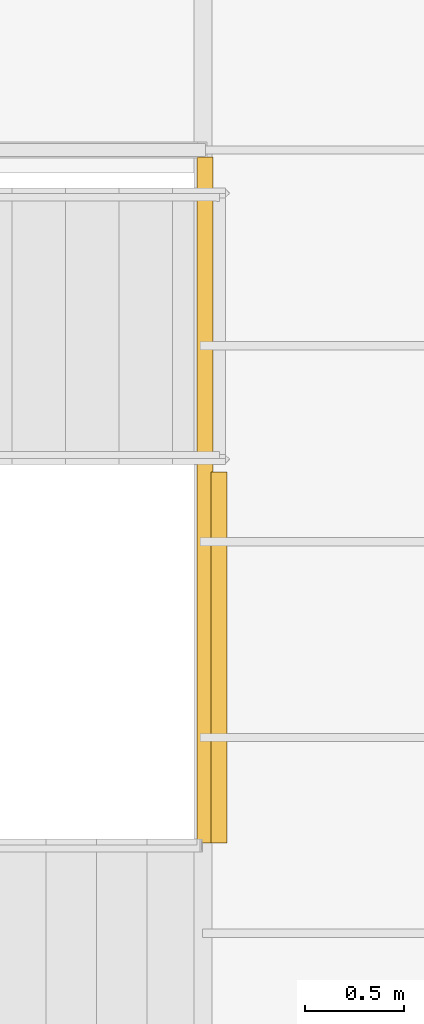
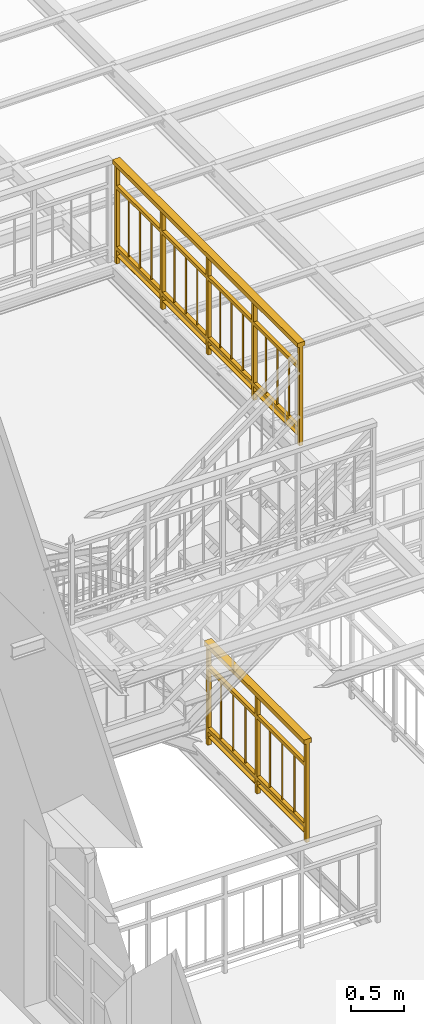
# One storey, part 29 of 33: 2 railings.
"""IFC2X3 building model written with IfcOpenShell, lengths in metres."""

from ifc_helpers import new_model, entity, si_unit, converted_unit, derived_unit, direction, frame, origin, place, context, subcontext, project, spatial, faceted_brep, element, save


model = new_model("IFC2X3")

# Units and contexts
model_context = context("Model", 3, precision=1e-05, world=origin(), true_north=direction((6.12303176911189e-17, 1.0)))
body_context = subcontext(model_context, "Body", "Model", "MODEL_VIEW")
ifc_project = project(units=[si_unit("LENGTHUNIT", "METRE"), si_unit("AREAUNIT", "SQUARE_METRE"), si_unit("VOLUMEUNIT", "CUBIC_METRE"), converted_unit("PLANEANGLEUNIT", "DEGREE", entity("IfcRatioMeasure", 0.0174532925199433), si_unit("PLANEANGLEUNIT", "RADIAN"), dimensions=[0, 0, 0, 0, 0, 0, 0]), si_unit("MASSUNIT", "GRAM", prefix="KILO"), derived_unit("MASSDENSITYUNIT", [(si_unit("MASSUNIT", "GRAM", prefix="KILO"), 1), (si_unit("LENGTHUNIT", "METRE"), -3)]), derived_unit("MOMENTOFINERTIAUNIT", [(si_unit("LENGTHUNIT", "METRE"), 4)]), si_unit("TIMEUNIT", "SECOND"), si_unit("FREQUENCYUNIT", "HERTZ"), si_unit("THERMODYNAMICTEMPERATUREUNIT", "DEGREE_CELSIUS"), derived_unit("THERMALTRANSMITTANCEUNIT", [(si_unit("MASSUNIT", "GRAM", prefix="KILO"), 1), (si_unit("THERMODYNAMICTEMPERATUREUNIT", "KELVIN"), -1), (si_unit("TIMEUNIT", "SECOND"), -3)]), derived_unit("VOLUMETRICFLOWRATEUNIT", [(si_unit("LENGTHUNIT", "METRE"), 3), (si_unit("TIMEUNIT", "SECOND"), -1)]), si_unit("ELECTRICCURRENTUNIT", "AMPERE"), si_unit("ELECTRICVOLTAGEUNIT", "VOLT"), si_unit("POWERUNIT", "WATT"), si_unit("FORCEUNIT", "NEWTON", prefix="KILO"), si_unit("ILLUMINANCEUNIT", "LUX"), si_unit("LUMINOUSFLUXUNIT", "LUMEN"), si_unit("LUMINOUSINTENSITYUNIT", "CANDELA"), derived_unit("USERDEFINED", [(si_unit("MASSUNIT", "GRAM", prefix="KILO"), -1), (si_unit("LENGTHUNIT", "METRE"), -2), (si_unit("TIMEUNIT", "SECOND"), 3), (si_unit("LUMINOUSFLUXUNIT", "LUMEN"), 1)]), derived_unit("LINEARVELOCITYUNIT", [(si_unit("LENGTHUNIT", "METRE"), 1), (si_unit("TIMEUNIT", "SECOND"), -1)]), si_unit("PRESSUREUNIT", "PASCAL"), derived_unit("USERDEFINED", [(si_unit("LENGTHUNIT", "METRE"), -2), (si_unit("MASSUNIT", "GRAM", prefix="KILO"), 1), (si_unit("TIMEUNIT", "SECOND"), -2)]), derived_unit("LINEARFORCEUNIT", [(si_unit("MASSUNIT", "GRAM", prefix="KILO"), 1), (si_unit("LENGTHUNIT", "METRE"), 1), (si_unit("TIMEUNIT", "SECOND"), -2), (si_unit("LENGTHUNIT", "METRE"), -1)]), derived_unit("PLANARFORCEUNIT", [(si_unit("MASSUNIT", "GRAM", prefix="KILO"), 1), (si_unit("LENGTHUNIT", "METRE"), 1), (si_unit("TIMEUNIT", "SECOND"), -2), (si_unit("LENGTHUNIT", "METRE"), -2)])], contexts=[model_context])

# Site, building, storey
site_placement = place(None, origin())
site = spatial("IfcSite", under=ifc_project, at=site_placement, Name="Superficie", CompositionType="ELEMENT")
building_placement = place(site_placement, origin())
building = spatial("IfcBuilding", under=site, at=building_placement, Name="Telegestiones", CompositionType="ELEMENT")
storey_placement = place(building_placement, frame((0.0, 0.0, 4.94)))
storey = spatial("IfcBuildingStorey", under=building, at=storey_placement, Name="Nivel 1_NPT", CompositionType="ELEMENT", Elevation=4.94)

# Railings
railing_1_placement = place(storey_placement, frame((9.68481262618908, 2.93175008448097, 0.0)))
element("IfcRailing", 1, at=railing_1_placement, inside=storey, Name="Barandilla:ARQ-BA-IN-118-Hi-Ba2", ObjectType="Barandilla:ARQ-BA-IN-118-Hi-Ba2", PredefinedType="NOTDEFINED", context=body_context, shape_type="Brep", body=[
    faceted_brep([(0.0300000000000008, 0.249496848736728, 0.2), (0.0400000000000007, 0.239496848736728, 0.2), (0.0400000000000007, 0.239496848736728, 0.859999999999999), (0.0300000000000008, 0.249496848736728, 0.859999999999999), (0.0500000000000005, 0.249496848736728, 0.2), (0.0500000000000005, 0.249496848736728, 0.859999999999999), (0.0400000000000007, 0.259496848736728, 0.2), (0.0400000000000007, 0.259496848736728, 0.859999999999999)], [[[0, 1, 2, 3]], [[2, 1, 4, 5]], [[5, 4, 6, 7]], [[7, 6, 0, 3]], [[3, 2, 5, 7]], [[0, 6, 4, 1]]]),
    faceted_brep([(0.0300000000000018, 0.478993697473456, 0.2), (0.0400000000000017, 0.468993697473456, 0.2), (0.0400000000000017, 0.468993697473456, 0.859999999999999), (0.0300000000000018, 0.478993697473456, 0.859999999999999), (0.0500000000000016, 0.478993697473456, 0.2), (0.0500000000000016, 0.478993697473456, 0.859999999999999), (0.0400000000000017, 0.488993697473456, 0.2), (0.0400000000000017, 0.488993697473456, 0.859999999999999)], [[[0, 1, 2, 3]], [[2, 1, 4, 5]], [[5, 4, 6, 7]], [[7, 6, 0, 3]], [[3, 2, 5, 7]], [[0, 6, 4, 1]]]),
    faceted_brep([(0.0300000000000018, 0.708490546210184, 0.2), (0.0400000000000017, 0.698490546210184, 0.2), (0.0400000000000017, 0.698490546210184, 0.859999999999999), (0.0300000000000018, 0.708490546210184, 0.859999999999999), (0.0500000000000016, 0.708490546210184, 0.2), (0.0500000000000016, 0.708490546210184, 0.859999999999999), (0.0400000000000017, 0.718490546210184, 0.2), (0.0400000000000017, 0.718490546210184, 0.859999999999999)], [[[0, 1, 2, 3]], [[2, 1, 4, 5]], [[5, 4, 6, 7]], [[7, 6, 0, 3]], [[3, 2, 5, 7]], [[0, 6, 4, 1]]]),
    faceted_brep([(0.0600000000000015, 0.957987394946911, 1.13), (0.0600000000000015, 0.957987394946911, 0.0), (0.020000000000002, 0.957987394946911, 0.0), (0.020000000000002, 0.957987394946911, 1.13), (0.020000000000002, 0.917987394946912, 0.0), (0.020000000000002, 0.917987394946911, 1.13), (0.0600000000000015, 0.917987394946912, 0.0), (0.0600000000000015, 0.917987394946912, 1.13)], [[[0, 1, 2, 3]], [[3, 2, 4, 5]], [[5, 4, 6, 7]], [[1, 0, 7, 6]], [[0, 3, 5, 7]], [[2, 1, 6, 4]]]),
    faceted_brep([(0.0300000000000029, 1.16748424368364, 0.2), (0.0400000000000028, 1.15748424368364, 0.2), (0.0400000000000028, 1.15748424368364, 0.859999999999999), (0.0300000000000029, 1.16748424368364, 0.859999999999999), (0.0500000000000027, 1.16748424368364, 0.2), (0.0500000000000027, 1.16748424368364, 0.859999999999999), (0.0400000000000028, 1.17748424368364, 0.2), (0.0400000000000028, 1.17748424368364, 0.859999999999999)], [[[0, 1, 2, 3]], [[2, 1, 4, 5]], [[5, 4, 6, 7]], [[7, 6, 0, 3]], [[3, 2, 5, 7]], [[0, 6, 4, 1]]]),
    faceted_brep([(0.0300000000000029, 1.39698109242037, 0.2), (0.0400000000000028, 1.38698109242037, 0.2), (0.0400000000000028, 1.38698109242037, 0.859999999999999), (0.0300000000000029, 1.39698109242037, 0.859999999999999), (0.0500000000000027, 1.39698109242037, 0.2), (0.0500000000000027, 1.39698109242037, 0.859999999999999), (0.0400000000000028, 1.40698109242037, 0.2), (0.0400000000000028, 1.40698109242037, 0.859999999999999)], [[[0, 1, 2, 3]], [[2, 1, 4, 5]], [[5, 4, 6, 7]], [[7, 6, 0, 3]], [[3, 2, 5, 7]], [[0, 6, 4, 1]]]),
    faceted_brep([(0.0300000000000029, 1.62647794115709, 0.2), (0.0400000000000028, 1.6164779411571, 0.2), (0.0400000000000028, 1.6164779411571, 0.859999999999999), (0.0300000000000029, 1.62647794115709, 0.859999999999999), (0.0500000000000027, 1.62647794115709, 0.2), (0.0500000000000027, 1.62647794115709, 0.859999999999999), (0.0400000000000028, 1.63647794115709, 0.2), (0.0400000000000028, 1.63647794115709, 0.859999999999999)], [[[0, 1, 2, 3]], [[2, 1, 4, 5]], [[5, 4, 6, 7]], [[7, 6, 0, 3]], [[3, 2, 5, 7]], [[0, 6, 4, 1]]]),
    faceted_brep([(0.0600000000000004, 0.0400000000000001, 1.13), (0.0600000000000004, 0.0400000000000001, 0.0), (0.0200000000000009, 0.0400000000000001, 0.0), (0.0200000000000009, 0.0400000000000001, 1.13), (0.0200000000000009, 0.0, 0.0), (0.0200000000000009, 0.0, 1.13), (0.0600000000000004, 0.0, 0.0), (0.0600000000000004, 0.0, 1.13)], [[[0, 1, 2, 3]], [[3, 2, 4, 5]], [[5, 4, 6, 7]], [[1, 0, 7, 6]], [[0, 3, 5, 7]], [[2, 1, 6, 4]]]),
    faceted_brep([(0.0600000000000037, 1.87597478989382, 1.13), (0.0600000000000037, 1.87597478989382, 0.0), (0.0200000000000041, 1.87597478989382, 0.0), (0.0200000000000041, 1.87597478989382, 1.13), (0.0200000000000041, 1.83597478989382, 0.0), (0.0200000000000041, 1.83597478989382, 1.13), (0.0600000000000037, 1.83597478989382, 0.0), (0.0600000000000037, 1.83597478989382, 1.13)], [[[0, 1, 2, 3]], [[3, 2, 4, 5]], [[5, 4, 6, 7]], [[1, 0, 7, 6]], [[0, 3, 5, 7]], [[2, 1, 6, 4]]]),
    faceted_brep([(0.0200000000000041, 1.85597478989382, 0.9), (0.0600000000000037, 1.85597478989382, 0.9), (0.0600000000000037, 1.85597478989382, 0.860000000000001), (0.0200000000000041, 1.85597478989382, 0.860000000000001), (0.0200000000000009, 0.0200000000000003, 0.9), (0.0200000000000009, 0.0200000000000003, 0.860000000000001), (0.0600000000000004, 0.0200000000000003, 0.860000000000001), (0.0600000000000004, 0.0200000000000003, 0.9)], [[[0, 1, 2, 3]], [[4, 5, 6, 7]], [[1, 0, 4, 7]], [[2, 1, 7, 6]], [[3, 2, 6, 5]], [[0, 3, 5, 4]]]),
    faceted_brep([(0.0200000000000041, 1.85597478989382, 0.2), (0.0600000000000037, 1.85597478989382, 0.2), (0.0600000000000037, 1.85597478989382, 0.16), (0.0200000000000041, 1.85597478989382, 0.16), (0.0200000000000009, 0.0200000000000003, 0.2), (0.0200000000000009, 0.0200000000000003, 0.16), (0.0600000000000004, 0.0200000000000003, 0.16), (0.0600000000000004, 0.0200000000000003, 0.2)], [[[0, 1, 2, 3]], [[4, 5, 6, 7]], [[1, 0, 4, 7]], [[2, 1, 7, 6]], [[3, 2, 6, 5]], [[0, 3, 5, 4]]]),
    faceted_brep([(0.0200000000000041, 1.85597478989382, 0.1), (0.0600000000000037, 1.85597478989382, 0.1), (0.0600000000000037, 1.85597478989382, 0.0940000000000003), (0.0200000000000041, 1.85597478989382, 0.0940000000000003), (0.0200000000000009, 0.0200000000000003, 0.1), (0.0200000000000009, 0.0200000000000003, 0.0940000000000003), (0.0600000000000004, 0.0200000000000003, 0.0940000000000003), (0.0600000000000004, 0.0200000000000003, 0.1)], [[[0, 1, 2, 3]], [[4, 5, 6, 7]], [[2, 1, 7, 6]], [[1, 0, 4, 7]], [[3, 2, 6, 5]], [[0, 3, 5, 4]]]),
    faceted_brep([(0.0800000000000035, 1.85597478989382, 1.13), (0.0800000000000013, 1.85597478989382, 1.18), (0.0799999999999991, 0.0200000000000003, 1.18), (0.0799999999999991, 0.0200000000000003, 1.13), (0.0, 1.85597478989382, 1.13), (0.0, 0.0200000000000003, 1.13), (0.0, 1.85597478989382, 1.18), (0.0, 0.0200000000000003, 1.18), (0.0800000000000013, 0.0, 1.18), (0.0, 0.0, 1.18), (0.0, 0.0, 1.13), (0.0799999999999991, 0.0, 1.13), (0.0800000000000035, 1.87597478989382, 1.18), (0.0800000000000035, 1.87597478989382, 1.13), (0.0, 1.87597478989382, 1.13), (0.0, 1.87597478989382, 1.18)], [[[0, 1, 2, 3]], [[4, 0, 3, 5]], [[6, 4, 5, 7]], [[1, 6, 7, 2]], [[8, 9, 10, 11]], [[3, 2, 8, 11]], [[5, 3, 11, 10]], [[7, 5, 10, 9]], [[2, 7, 9, 8]], [[12, 13, 14, 15]], [[13, 12, 1, 0]], [[14, 13, 0, 4]], [[15, 14, 4, 6]], [[12, 15, 6, 1]]]),
])
railing_2_placement = place(storey_placement, frame((9.61481262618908, 2.93175008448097, 4.56)))
element("IfcRailing", 2, at=railing_2_placement, inside=storey, Name="Barandilla:ARQ-BA-IN-118-Hi-Ba2", ObjectType="Barandilla:ARQ-BA-IN-118-Hi-Ba2", PredefinedType="NOTDEFINED", context=body_context, shape_type="Brep", body=[
    faceted_brep([(0.0300000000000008, 0.23424107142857, 0.2), (0.0400000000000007, 0.22424107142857, 0.2), (0.0400000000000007, 0.22424107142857, 0.859999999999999), (0.0300000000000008, 0.23424107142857, 0.859999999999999), (0.0500000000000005, 0.23424107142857, 0.2), (0.0500000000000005, 0.23424107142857, 0.859999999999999), (0.0400000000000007, 0.24424107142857, 0.2), (0.0400000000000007, 0.24424107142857, 0.859999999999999)], [[[0, 1, 2, 3]], [[2, 1, 4, 5]], [[5, 4, 6, 7]], [[7, 6, 0, 3]], [[3, 2, 5, 7]], [[0, 6, 4, 1]]]),
    faceted_brep([(0.0300000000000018, 0.448482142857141, 0.2), (0.0400000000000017, 0.438482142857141, 0.2), (0.0400000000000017, 0.438482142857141, 0.859999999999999), (0.0300000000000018, 0.448482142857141, 0.859999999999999), (0.0500000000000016, 0.448482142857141, 0.2), (0.0500000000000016, 0.448482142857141, 0.859999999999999), (0.0400000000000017, 0.45848214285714, 0.2), (0.0400000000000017, 0.45848214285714, 0.859999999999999)], [[[0, 1, 2, 3]], [[2, 1, 4, 5]], [[5, 4, 6, 7]], [[7, 6, 0, 3]], [[3, 2, 5, 7]], [[0, 6, 4, 1]]]),
    faceted_brep([(0.0300000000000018, 0.66272321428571, 0.2), (0.0400000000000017, 0.65272321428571, 0.2), (0.0400000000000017, 0.65272321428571, 0.859999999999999), (0.0300000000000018, 0.66272321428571, 0.859999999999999), (0.0500000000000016, 0.66272321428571, 0.2), (0.0500000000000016, 0.66272321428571, 0.859999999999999), (0.0400000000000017, 0.67272321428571, 0.2), (0.0400000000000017, 0.67272321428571, 0.859999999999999)], [[[0, 1, 2, 3]], [[2, 1, 4, 5]], [[5, 4, 6, 7]], [[7, 6, 0, 3]], [[3, 2, 5, 7]], [[0, 6, 4, 1]]]),
    faceted_brep([(0.0600000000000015, 0.89696428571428, 1.13), (0.0600000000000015, 0.89696428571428, 0.0), (0.020000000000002, 0.89696428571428, 0.0), (0.020000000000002, 0.89696428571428, 1.13), (0.020000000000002, 0.85696428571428, 0.0), (0.020000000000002, 0.85696428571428, 1.13), (0.0600000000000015, 0.85696428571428, 0.0), (0.0600000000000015, 0.85696428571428, 1.13)], [[[0, 1, 2, 3]], [[3, 2, 4, 5]], [[5, 4, 6, 7]], [[1, 0, 7, 6]], [[0, 3, 5, 7]], [[2, 1, 6, 4]]]),
    faceted_brep([(0.0300000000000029, 1.09120535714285, 0.2), (0.0400000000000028, 1.08120535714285, 0.2), (0.0400000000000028, 1.08120535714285, 0.859999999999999), (0.0300000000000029, 1.09120535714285, 0.859999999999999), (0.0500000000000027, 1.09120535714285, 0.2), (0.0500000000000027, 1.09120535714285, 0.859999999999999), (0.0400000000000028, 1.10120535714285, 0.2), (0.0400000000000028, 1.10120535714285, 0.859999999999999)], [[[0, 1, 2, 3]], [[2, 1, 4, 5]], [[5, 4, 6, 7]], [[7, 6, 0, 3]], [[3, 2, 5, 7]], [[0, 6, 4, 1]]]),
    faceted_brep([(0.0300000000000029, 1.30544642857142, 0.2), (0.0400000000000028, 1.29544642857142, 0.2), (0.0400000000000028, 1.29544642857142, 0.859999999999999), (0.0300000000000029, 1.30544642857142, 0.859999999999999), (0.0500000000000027, 1.30544642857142, 0.2), (0.0500000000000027, 1.30544642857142, 0.859999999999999), (0.0400000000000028, 1.31544642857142, 0.2), (0.0400000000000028, 1.31544642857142, 0.859999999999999)], [[[0, 1, 2, 3]], [[2, 1, 4, 5]], [[5, 4, 6, 7]], [[7, 6, 0, 3]], [[3, 2, 5, 7]], [[0, 6, 4, 1]]]),
    faceted_brep([(0.0300000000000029, 1.51968749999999, 0.2), (0.0400000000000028, 1.50968749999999, 0.2), (0.0400000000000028, 1.50968749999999, 0.859999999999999), (0.0300000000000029, 1.51968749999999, 0.859999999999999), (0.0500000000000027, 1.51968749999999, 0.2), (0.0500000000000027, 1.51968749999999, 0.859999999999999), (0.0400000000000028, 1.52968749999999, 0.2), (0.0400000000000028, 1.52968749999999, 0.859999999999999)], [[[0, 1, 2, 3]], [[2, 1, 4, 5]], [[5, 4, 6, 7]], [[7, 6, 0, 3]], [[3, 2, 5, 7]], [[0, 6, 4, 1]]]),
    faceted_brep([(0.0600000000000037, 1.75392857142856, 1.13), (0.0600000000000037, 1.75392857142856, 0.0), (0.0200000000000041, 1.75392857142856, 0.0), (0.0200000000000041, 1.75392857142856, 1.13), (0.0200000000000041, 1.71392857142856, 0.0), (0.0200000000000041, 1.71392857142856, 1.13), (0.0600000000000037, 1.71392857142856, 0.0), (0.0600000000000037, 1.71392857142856, 1.13)], [[[0, 1, 2, 3]], [[3, 2, 4, 5]], [[5, 4, 6, 7]], [[1, 0, 7, 6]], [[0, 3, 5, 7]], [[2, 1, 6, 4]]]),
    faceted_brep([(0.030000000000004, 1.94816964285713, 0.2), (0.0400000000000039, 1.93816964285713, 0.2), (0.0400000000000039, 1.93816964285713, 0.859999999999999), (0.030000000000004, 1.94816964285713, 0.859999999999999), (0.0500000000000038, 1.94816964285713, 0.2), (0.0500000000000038, 1.94816964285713, 0.859999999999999), (0.0400000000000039, 1.95816964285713, 0.2), (0.0400000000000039, 1.95816964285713, 0.859999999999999)], [[[0, 1, 2, 3]], [[2, 1, 4, 5]], [[5, 4, 6, 7]], [[7, 6, 0, 3]], [[3, 2, 5, 7]], [[0, 6, 4, 1]]]),
    faceted_brep([(0.030000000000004, 2.1624107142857, 0.2), (0.0400000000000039, 2.1524107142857, 0.2), (0.0400000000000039, 2.1524107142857, 0.859999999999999), (0.030000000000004, 2.1624107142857, 0.859999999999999), (0.0500000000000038, 2.1624107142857, 0.2), (0.0500000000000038, 2.1624107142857, 0.859999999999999), (0.0400000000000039, 2.1724107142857, 0.2), (0.0400000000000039, 2.1724107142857, 0.859999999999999)], [[[0, 1, 2, 3]], [[2, 1, 4, 5]], [[5, 4, 6, 7]], [[7, 6, 0, 3]], [[3, 2, 5, 7]], [[0, 6, 4, 1]]]),
    faceted_brep([(0.0300000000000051, 2.37665178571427, 0.2), (0.040000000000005, 2.36665178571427, 0.2), (0.040000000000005, 2.36665178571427, 0.859999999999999), (0.0300000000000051, 2.37665178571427, 0.859999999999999), (0.0500000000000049, 2.37665178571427, 0.2), (0.0500000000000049, 2.37665178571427, 0.859999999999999), (0.040000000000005, 2.38665178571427, 0.2), (0.040000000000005, 2.38665178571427, 0.859999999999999)], [[[0, 1, 2, 3]], [[2, 1, 4, 5]], [[5, 4, 6, 7]], [[7, 6, 0, 3]], [[3, 2, 5, 7]], [[0, 6, 4, 1]]]),
    faceted_brep([(0.0600000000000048, 2.61089285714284, 1.13), (0.0600000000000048, 2.61089285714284, 0.0), (0.0200000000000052, 2.61089285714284, 0.0), (0.0200000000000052, 2.61089285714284, 1.13), (0.0200000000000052, 2.57089285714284, 0.0), (0.0200000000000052, 2.57089285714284, 1.13), (0.0600000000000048, 2.57089285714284, 0.0), (0.0600000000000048, 2.57089285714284, 1.13)], [[[0, 1, 2, 3]], [[3, 2, 4, 5]], [[5, 4, 6, 7]], [[1, 0, 7, 6]], [[0, 3, 5, 7]], [[2, 1, 6, 4]]]),
    faceted_brep([(0.0300000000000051, 2.80513392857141, 0.2), (0.040000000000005, 2.79513392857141, 0.2), (0.040000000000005, 2.79513392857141, 0.859999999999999), (0.0300000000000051, 2.80513392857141, 0.859999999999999), (0.0500000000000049, 2.80513392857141, 0.2), (0.0500000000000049, 2.80513392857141, 0.859999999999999), (0.040000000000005, 2.81513392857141, 0.2), (0.040000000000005, 2.81513392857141, 0.859999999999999)], [[[0, 1, 2, 3]], [[2, 1, 4, 5]], [[5, 4, 6, 7]], [[7, 6, 0, 3]], [[3, 2, 5, 7]], [[0, 6, 4, 1]]]),
    faceted_brep([(0.0300000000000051, 3.01937499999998, 0.2), (0.040000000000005, 3.00937499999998, 0.2), (0.040000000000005, 3.00937499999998, 0.859999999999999), (0.0300000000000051, 3.01937499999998, 0.859999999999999), (0.0500000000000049, 3.01937499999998, 0.2), (0.0500000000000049, 3.01937499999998, 0.859999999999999), (0.040000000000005, 3.02937499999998, 0.2), (0.040000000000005, 3.02937499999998, 0.859999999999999)], [[[0, 1, 2, 3]], [[2, 1, 4, 5]], [[5, 4, 6, 7]], [[7, 6, 0, 3]], [[3, 2, 5, 7]], [[0, 6, 4, 1]]]),
    faceted_brep([(0.0300000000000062, 3.23361607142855, 0.2), (0.0400000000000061, 3.22361607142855, 0.2), (0.0400000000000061, 3.22361607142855, 0.859999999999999), (0.0300000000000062, 3.23361607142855, 0.859999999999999), (0.050000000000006, 3.23361607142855, 0.2), (0.050000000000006, 3.23361607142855, 0.859999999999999), (0.0400000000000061, 3.24361607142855, 0.2), (0.0400000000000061, 3.24361607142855, 0.859999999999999)], [[[0, 1, 2, 3]], [[2, 1, 4, 5]], [[5, 4, 6, 7]], [[7, 6, 0, 3]], [[3, 2, 5, 7]], [[0, 6, 4, 1]]]),
    faceted_brep([(0.0600000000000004, 0.0400000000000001, 1.13), (0.0600000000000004, 0.0400000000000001, 0.0), (0.0200000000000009, 0.0400000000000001, 0.0), (0.0200000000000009, 0.0400000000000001, 1.13), (0.0200000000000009, 0.0, 0.0), (0.0200000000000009, 0.0, 1.13), (0.0600000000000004, 0.0, 0.0), (0.0600000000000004, 0.0, 1.13)], [[[0, 1, 2, 3]], [[3, 2, 4, 5]], [[5, 4, 6, 7]], [[1, 0, 7, 6]], [[0, 3, 5, 7]], [[2, 1, 6, 4]]]),
    faceted_brep([(0.0600000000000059, 3.46785714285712, 1.13), (0.0600000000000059, 3.46785714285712, 0.0), (0.0200000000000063, 3.46785714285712, 0.0), (0.0200000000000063, 3.46785714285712, 1.13), (0.0200000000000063, 3.42785714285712, 0.0), (0.0200000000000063, 3.42785714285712, 1.13), (0.0600000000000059, 3.42785714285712, 0.0), (0.0600000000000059, 3.42785714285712, 1.13)], [[[0, 1, 2, 3]], [[3, 2, 4, 5]], [[5, 4, 6, 7]], [[1, 0, 7, 6]], [[0, 3, 5, 7]], [[2, 1, 6, 4]]]),
    faceted_brep([(0.0200000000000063, 3.44785714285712, 0.899999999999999), (0.0600000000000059, 3.44785714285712, 0.899999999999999), (0.0600000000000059, 3.44785714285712, 0.859999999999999), (0.0200000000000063, 3.44785714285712, 0.859999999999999), (0.0200000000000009, 0.0200000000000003, 0.899999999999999), (0.0200000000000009, 0.0200000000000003, 0.859999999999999), (0.0600000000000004, 0.0200000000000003, 0.859999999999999), (0.0600000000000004, 0.0200000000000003, 0.899999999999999)], [[[0, 1, 2, 3]], [[4, 5, 6, 7]], [[1, 0, 4, 7]], [[2, 1, 7, 6]], [[3, 2, 6, 5]], [[0, 3, 5, 4]]]),
    faceted_brep([(0.0200000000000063, 3.44785714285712, 0.2), (0.0600000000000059, 3.44785714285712, 0.2), (0.0600000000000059, 3.44785714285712, 0.16), (0.0200000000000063, 3.44785714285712, 0.16), (0.0200000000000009, 0.0200000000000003, 0.2), (0.0200000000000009, 0.0200000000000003, 0.16), (0.0600000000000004, 0.0200000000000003, 0.16), (0.0600000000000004, 0.0200000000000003, 0.2)], [[[0, 1, 2, 3]], [[4, 5, 6, 7]], [[1, 0, 4, 7]], [[2, 1, 7, 6]], [[3, 2, 6, 5]], [[0, 3, 5, 4]]]),
    faceted_brep([(0.0200000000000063, 3.44785714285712, 0.1), (0.0600000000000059, 3.44785714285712, 0.1), (0.0600000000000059, 3.44785714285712, 0.0940000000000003), (0.0200000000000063, 3.44785714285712, 0.0940000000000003), (0.0200000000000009, 0.0200000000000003, 0.1), (0.0200000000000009, 0.0200000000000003, 0.0940000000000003), (0.0600000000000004, 0.0200000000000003, 0.0940000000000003), (0.0600000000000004, 0.0200000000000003, 0.1)], [[[0, 1, 2, 3]], [[4, 5, 6, 7]], [[2, 1, 7, 6]], [[1, 0, 4, 7]], [[3, 2, 6, 5]], [[0, 3, 5, 4]]]),
    faceted_brep([(0.0800000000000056, 3.44785714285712, 1.13), (0.0800000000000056, 3.44785714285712, 1.18), (0.0800000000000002, 0.0200000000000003, 1.18), (0.0800000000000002, 0.0200000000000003, 1.13), (0.0, 3.44785714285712, 1.13), (0.0, 0.0200000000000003, 1.13), (0.0, 3.44785714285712, 1.18), (0.0, 0.0200000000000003, 1.18), (0.0800000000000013, 0.0, 1.18), (0.0, 0.0, 1.18), (0.0, 0.0, 1.13), (0.0800000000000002, 0.0, 1.13), (0.0800000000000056, 3.46785714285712, 1.18), (0.0800000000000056, 3.46785714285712, 1.13), (0.0, 3.46785714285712, 1.13), (0.0, 3.46785714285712, 1.18)], [[[0, 1, 2, 3]], [[4, 0, 3, 5]], [[6, 4, 5, 7]], [[1, 6, 7, 2]], [[8, 9, 10, 11]], [[3, 2, 8, 11]], [[5, 3, 11, 10]], [[7, 5, 10, 9]], [[2, 7, 9, 8]], [[12, 13, 14, 15]], [[13, 12, 1, 0]], [[14, 13, 0, 4]], [[15, 14, 4, 6]], [[12, 15, 6, 1]]]),
])

save(model, "model.ifc")
